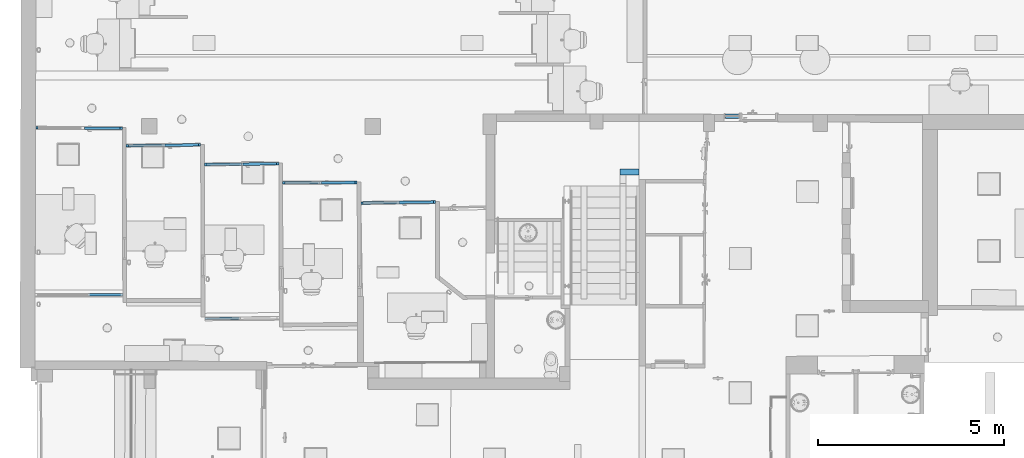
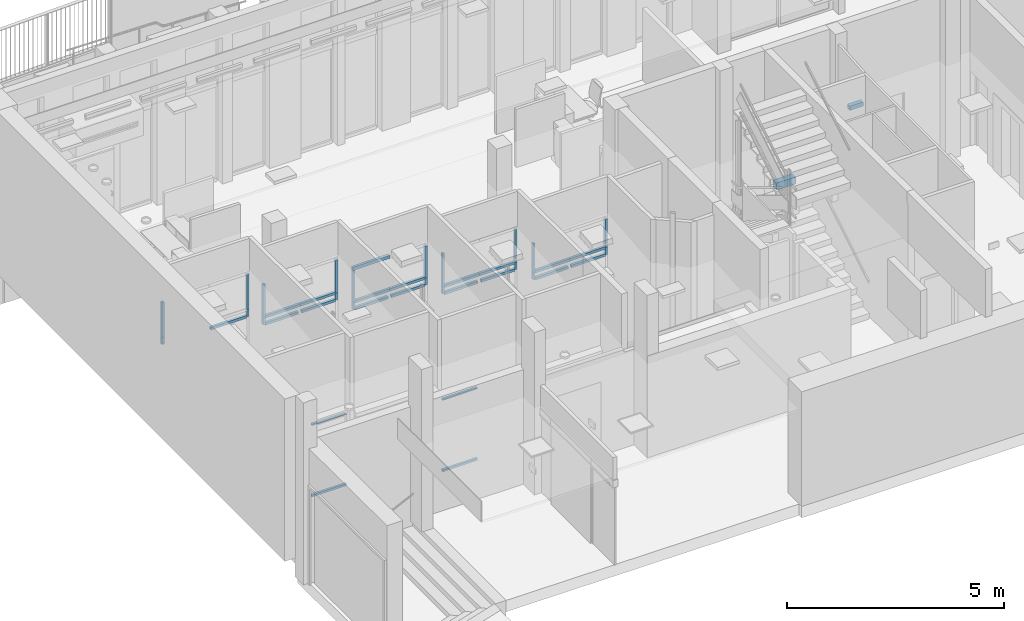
# One storey, part 14 of 128: 44 members, 9 elements without a shape of their own.
"""IFC2X3 building model written with IfcOpenShell, lengths in metres."""

from ifc_helpers import new_model, entity, si_unit, converted_unit, derived_unit, direction, frame, frame_2d, origin, origin_2d_with_axis, place, context, subcontext, project, spatial, rectangle, extrude, source, transform, mapped, material, type_object, type_shapes, element, aggregate, save


model = new_model("IFC2X3")

# Units and contexts
model_context = context("Model", 3, precision=1e-05, world=origin(), true_north=direction((6.123031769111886e-17, 1.0)))
body_context = subcontext(model_context, "Body", "Model", "MODEL_VIEW")
ifc_project = project(units=[si_unit("LENGTHUNIT", "METRE"), si_unit("AREAUNIT", "SQUARE_METRE"), converted_unit("PLANEANGLEUNIT", "DEGREE", entity("IfcPlaneAngleMeasure", 0.017453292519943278), si_unit("PLANEANGLEUNIT", "RADIAN"), dimensions=[0, 0, 0, 0, 0, 0, 0]), derived_unit("THERMALTRANSMITTANCEUNIT", [(si_unit("MASSUNIT", "GRAM", prefix="KILO"), 1), (si_unit("THERMODYNAMICTEMPERATUREUNIT", "KELVIN"), -1), (si_unit("TIMEUNIT", "SECOND"), -3)])], contexts=[model_context])

# Site, building, storey
site_placement = place(None, origin())
site = spatial("IfcSite", under=ifc_project, at=site_placement, Name="Default", CompositionType="ELEMENT")
building_placement = place(site_placement, origin())
building = spatial("IfcBuilding", under=site, at=building_placement, CompositionType="ELEMENT")
storey_placement = place(building_placement, origin())
storey = spatial("IfcBuildingStorey", under=building, at=storey_placement, Name="00_RDC CAF", CompositionType="ELEMENT", Elevation=2.4982504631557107e-13)

# Curtain wall, member
curtain_wall_type_1 = type_object("IfcCurtainWallType", Name="Mur-rideau:M.Ri_Vitre_40mm_Montant_70X90mm", PredefinedType="NOTDEFINED")
curtain_wall_1_placement = place(storey_placement, origin())
curtain_wall_1 = element("IfcCurtainWall", 1, at=curtain_wall_1_placement, inside=storey, type_object=curtain_wall_type_1, Name="Mur-rideau:M.Ri_Vitre_40mm_Montant_70X90mm", ObjectType="Mur-rideau:M.Ri_Vitre_40mm_Montant_70X90mm")
ifc_material_1 = material(Name="ARC - M.In - Blanc")
member_type_1 = type_object("IfcMemberType", Name="Meneau rectangulaire:M.Ri.M_Int_Rectangulaire_60x70mm", PredefinedType="MULLION", material=ifc_material_1)
shared_shape_1 = source(origin(), body_context, "Body", "SweptSolid", [
    extrude(rectangle(XDim=0.06, YDim=0.07, at=frame_2d((0.0, 3.469446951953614e-18), x_axis=(1.0, 0.0))), frame((-0.03, 0.0, -0.9299999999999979), z_axis=(0.0, 0.0, 1.0), x_axis=(-1.0, 0.0, 0.0)), (0.0, 0.0, 1.0), 0.9299999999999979),
])
type_shapes(member_type_1, [shared_shape_1])
member_1_placement = place(curtain_wall_1_placement, frame((9.10973142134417, 136.0333123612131, 3.204999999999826), z_axis=(0.0, 0.0, 1.0), x_axis=(-0.9999489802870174, -0.010101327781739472, 0.0)))
member_1 = element("IfcMember", 2, at=member_1_placement, type_object=member_type_1, material=ifc_material_1, Name="Meneau rectangulaire:M.Ri.M_Int_Rectangulaire_60x70mm", ObjectType="Meneau rectangulaire:M.Ri.M_Int_Rectangulaire_60x70mm", context=body_context, shape_type="MappedRepresentation", body=[
    mapped(shared_shape_1, transform((0.0, 0.0, 0.0), scale=1.0)),
])

curtain_wall_2_placement = place(storey_placement, origin())
curtain_wall_2 = element("IfcCurtainWall", 3, at=curtain_wall_2_placement, inside=storey, type_object=curtain_wall_type_1, Name="Mur-rideau:M.Ri_Vitre_40mm_Montant_70X90mm", ObjectType="Mur-rideau:M.Ri_Vitre_40mm_Montant_70X90mm")
member_2_placement = place(curtain_wall_2_placement, frame((13.312493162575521, 135.03223474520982, 3.204999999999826), z_axis=(0.0, 0.0, 1.0), x_axis=(-0.9999841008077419, -0.005638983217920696, 0.0)))
member_2 = element("IfcMember", 4, at=member_2_placement, type_object=member_type_1, material=ifc_material_1, Name="Meneau rectangulaire:M.Ri.M_Int_Rectangulaire_60x70mm", ObjectType="Meneau rectangulaire:M.Ri.M_Int_Rectangulaire_60x70mm", context=body_context, shape_type="MappedRepresentation", body=[
    mapped(shared_shape_1, transform((0.0, 0.0, 0.0), scale=1.0)),
])

# Member
member_type_2 = type_object("IfcMemberType", Name="Meneau rectangulaire:M.Ri.M_Int_Rectangulaire_60x70mm", PredefinedType="MULLION", material=ifc_material_1)
shared_shape_2 = source(origin(), body_context, "Body", "SweptSolid", [
    extrude(rectangle(XDim=0.06, YDim=0.07, at=frame_2d((0.0, 3.469446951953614e-18), x_axis=(1.0, 0.0))), frame((-0.03, 0.0, -0.2000000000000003), z_axis=(0.0, 0.0, 1.0), x_axis=(-1.0, 0.0, 0.0)), (0.0, 0.0, 1.0), 0.2000000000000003),
])
type_shapes(member_type_2, [shared_shape_2])
member_3_placement = place(curtain_wall_1_placement, frame((11.111169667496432, 136.0535305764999, 2.0749999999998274), z_axis=(0.0, 0.0, -1.0), x_axis=(0.9999489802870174, 0.010101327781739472, 0.0)))
member_3 = element("IfcMember", 5, at=member_3_placement, type_object=member_type_2, material=ifc_material_1, Name="Meneau rectangulaire:M.Ri.M_Int_Rectangulaire_60x70mm", ObjectType="Meneau rectangulaire:M.Ri.M_Int_Rectangulaire_60x70mm", context=body_context, shape_type="MappedRepresentation", body=[
    mapped(shared_shape_2, transform((0.0, 0.0, 0.0), scale=1.0)),
])

# Curtain wall, member
curtain_wall_3_placement = place(storey_placement, origin())
curtain_wall_3 = element("IfcCurtainWall", 6, at=curtain_wall_3_placement, inside=storey, type_object=curtain_wall_type_1, Name="Mur-rideau:M.Ri_Vitre_40mm_Montant_70X90mm", ObjectType="Mur-rideau:M.Ri_Vitre_40mm_Montant_70X90mm")
member_4_placement = place(curtain_wall_3_placement, frame((13.209965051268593, 135.54648401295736, 2.074999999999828), z_axis=(0.0, 0.0, -1.0), x_axis=(0.9999489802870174, 0.010101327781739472, 0.0)))
member_4 = element("IfcMember", 7, at=member_4_placement, type_object=member_type_2, material=ifc_material_1, Name="Meneau rectangulaire:M.Ri.M_Int_Rectangulaire_60x70mm", ObjectType="Meneau rectangulaire:M.Ri.M_Int_Rectangulaire_60x70mm", context=body_context, shape_type="MappedRepresentation", body=[
    mapped(shared_shape_2, transform((0.0, 0.0, 0.0), scale=1.0)),
])

curtain_wall_4_placement = place(storey_placement, origin())
curtain_wall_4 = element("IfcCurtainWall", 8, at=curtain_wall_4_placement, inside=storey, type_object=curtain_wall_type_1, Name="Mur-rideau:M.Ri_Vitre_40mm_Montant_70X90mm", ObjectType="Mur-rideau:M.Ri_Vitre_40mm_Montant_70X90mm")
member_5_placement = place(curtain_wall_4_placement, frame((9.008450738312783, 136.5017976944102, 2.074999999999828), z_axis=(0.0, 0.0, -1.0), x_axis=(1.0, 0.0, 0.0)))
member_5 = element("IfcMember", 9, at=member_5_placement, type_object=member_type_2, material=ifc_material_1, Name="Meneau rectangulaire:M.Ri.M_Int_Rectangulaire_60x70mm", ObjectType="Meneau rectangulaire:M.Ri.M_Int_Rectangulaire_60x70mm", context=body_context, shape_type="MappedRepresentation", body=[
    mapped(shared_shape_2, transform((0.0, 0.0, 0.0), scale=1.0)),
])

# Member
member_6_placement = place(curtain_wall_2_placement, frame((15.313763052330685, 135.04352005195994, 2.0749999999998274), z_axis=(0.0, 0.0, -1.0), x_axis=(0.9999841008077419, 0.005638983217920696, 0.0)))
member_6 = element("IfcMember", 10, at=member_6_placement, type_object=member_type_2, material=ifc_material_1, Name="Meneau rectangulaire:M.Ri.M_Int_Rectangulaire_60x70mm", ObjectType="Meneau rectangulaire:M.Ri.M_Int_Rectangulaire_60x70mm", context=body_context, shape_type="MappedRepresentation", body=[
    mapped(shared_shape_2, transform((0.0, 0.0, 0.0), scale=1.0)),
])

# Curtain wall, member
curtain_wall_5_placement = place(storey_placement, origin())
curtain_wall_5 = element("IfcCurtainWall", 11, at=curtain_wall_5_placement, inside=storey, type_object=curtain_wall_type_1, Name="Mur-rideau:M.Ri_Vitre_40mm_Montant_70X90mm", ObjectType="Mur-rideau:M.Ri_Vitre_40mm_Montant_70X90mm")
member_7_placement = place(curtain_wall_5_placement, frame((17.418983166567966, 134.51996317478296, 2.074999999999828), z_axis=(0.0, 0.0, -1.0), x_axis=(0.9998908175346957, 0.014776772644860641, 0.0)))
member_7 = element("IfcMember", 12, at=member_7_placement, type_object=member_type_2, material=ifc_material_1, Name="Meneau rectangulaire:M.Ri.M_Int_Rectangulaire_60x70mm", ObjectType="Meneau rectangulaire:M.Ri.M_Int_Rectangulaire_60x70mm", context=body_context, shape_type="MappedRepresentation", body=[
    mapped(shared_shape_2, transform((0.0, 0.0, 0.0), scale=1.0)),
])

# Member
member_type_3 = type_object("IfcMemberType", Name="Meneau rectangulaire:M.Ri.M_Int_Rectangulaire_60x70mm", PredefinedType="MULLION", material=ifc_material_1)
shared_shape_3 = source(origin(), body_context, "Body", "SweptSolid", [
    extrude(rectangle(XDim=0.06, YDim=0.07, at=frame_2d((0.0, 3.469446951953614e-18), x_axis=(1.0, 0.0))), frame((-0.03, 0.0, -0.2000000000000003), z_axis=(0.0, 0.0, 1.0), x_axis=(-1.0, 0.0, 0.0)), (0.0, 0.0, 1.0), 0.2000000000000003),
])
type_shapes(member_type_3, [shared_shape_3])
member_8_placement = place(curtain_wall_1_placement, frame((9.10973142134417, 136.0333123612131, 2.2749999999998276), z_axis=(0.0, 0.0, 1.0), x_axis=(-0.9999489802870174, -0.010101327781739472, 0.0)))
member_8 = element("IfcMember", 13, at=member_8_placement, type_object=member_type_3, material=ifc_material_1, Name="Meneau rectangulaire:M.Ri.M_Int_Rectangulaire_60x70mm", ObjectType="Meneau rectangulaire:M.Ri.M_Int_Rectangulaire_60x70mm", context=body_context, shape_type="MappedRepresentation", body=[
    mapped(shared_shape_3, transform((0.0, 0.0, 0.0), scale=1.0)),
])

member_9_placement = place(curtain_wall_3_placement, frame((11.212610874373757, 135.52630705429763, 2.2749999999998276), z_axis=(0.0, 0.0, 1.0), x_axis=(-0.9999489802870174, -0.010101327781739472, 0.0)))
member_9 = element("IfcMember", 14, at=member_9_placement, type_object=member_type_3, material=ifc_material_1, Name="Meneau rectangulaire:M.Ri.M_Int_Rectangulaire_60x70mm", ObjectType="Meneau rectangulaire:M.Ri.M_Int_Rectangulaire_60x70mm", context=body_context, shape_type="MappedRepresentation", body=[
    mapped(shared_shape_3, transform((0.0, 0.0, 0.0), scale=1.0)),
])

member_10_placement = place(curtain_wall_4_placement, frame((6.6901867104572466, 136.50948179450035, 2.2749999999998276), z_axis=(0.0, 0.0, 1.0), x_axis=(-1.0, 0.0, 0.0)))
member_10 = element("IfcMember", 15, at=member_10_placement, type_object=member_type_3, material=ifc_material_1, Name="Meneau rectangulaire:M.Ri.M_Int_Rectangulaire_60x70mm", ObjectType="Meneau rectangulaire:M.Ri.M_Int_Rectangulaire_60x70mm", context=body_context, shape_type="MappedRepresentation", body=[
    mapped(shared_shape_3, transform((0.0, 0.0, 0.0), scale=1.0)),
])

member_11_placement = place(curtain_wall_2_placement, frame((13.312493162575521, 135.03223474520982, 2.2749999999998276), z_axis=(0.0, 0.0, 1.0), x_axis=(-0.9999841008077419, -0.005638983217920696, 0.0)))
member_11 = element("IfcMember", 16, at=member_11_placement, type_object=member_type_3, material=ifc_material_1, Name="Meneau rectangulaire:M.Ri.M_Int_Rectangulaire_60x70mm", ObjectType="Meneau rectangulaire:M.Ri.M_Int_Rectangulaire_60x70mm", context=body_context, shape_type="MappedRepresentation", body=[
    mapped(shared_shape_3, transform((0.0, 0.0, 0.0), scale=1.0)),
])

member_12_placement = place(curtain_wall_5_placement, frame((15.415211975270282, 134.49035067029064, 2.2749999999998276), z_axis=(0.0, 0.0, 1.0), x_axis=(-0.9998908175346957, -0.014776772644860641, 0.0)))
member_12 = element("IfcMember", 17, at=member_12_placement, type_object=member_type_3, material=ifc_material_1, Name="Meneau rectangulaire:M.Ri.M_Int_Rectangulaire_60x70mm", ObjectType="Meneau rectangulaire:M.Ri.M_Int_Rectangulaire_60x70mm", context=body_context, shape_type="MappedRepresentation", body=[
    mapped(shared_shape_3, transform((0.0, 0.0, 0.0), scale=1.0)),
])

member_type_4 = type_object("IfcMemberType", Name="Meneau rectangulaire:M.Ri.M_Int_Rectangulaire_60x70mm", PredefinedType="MULLION", material=ifc_material_1)
shared_shape_4 = source(origin(), body_context, "Body", "SweptSolid", [
    extrude(rectangle(XDim=0.06, YDim=0.07, at=frame_2d((0.0, 3.469446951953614e-18), x_axis=(1.0, 0.0))), frame((-0.03, 0.0, -0.9299999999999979), z_axis=(0.0, 0.0, 1.0), x_axis=(-1.0, 0.0, 0.0)), (0.0, 0.0, 1.0), 0.9299999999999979),
])
type_shapes(member_type_4, [shared_shape_4])
member_13_placement = place(curtain_wall_1_placement, frame((11.111169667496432, 136.0535305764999, 2.2749999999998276), z_axis=(0.0, 0.0, -1.0), x_axis=(0.9999489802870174, 0.010101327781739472, 0.0)))
member_13 = element("IfcMember", 18, at=member_13_placement, type_object=member_type_4, material=ifc_material_1, Name="Meneau rectangulaire:M.Ri.M_Int_Rectangulaire_60x70mm", ObjectType="Meneau rectangulaire:M.Ri.M_Int_Rectangulaire_60x70mm", context=body_context, shape_type="MappedRepresentation", body=[
    mapped(shared_shape_4, transform((0.0, 0.0, 0.0), scale=1.0)),
])

member_14_placement = place(curtain_wall_2_placement, frame((15.313763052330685, 135.04352005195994, 2.2749999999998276), z_axis=(0.0, 0.0, -1.0), x_axis=(0.9999841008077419, 0.005638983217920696, 0.0)))
member_14 = element("IfcMember", 19, at=member_14_placement, type_object=member_type_4, material=ifc_material_1, Name="Meneau rectangulaire:M.Ri.M_Int_Rectangulaire_60x70mm", ObjectType="Meneau rectangulaire:M.Ri.M_Int_Rectangulaire_60x70mm", context=body_context, shape_type="MappedRepresentation", body=[
    mapped(shared_shape_4, transform((0.0, 0.0, 0.0), scale=1.0)),
])

member_type_5 = type_object("IfcMemberType", Name="Meneau rectangulaire:M.Ri.M_Int_Rectangulaire_70x70mm", PredefinedType="MULLION", material=ifc_material_1)
shared_shape_5 = source(origin(), body_context, "Body", "SweptSolid", [
    extrude(rectangle(XDim=0.07, YDim=0.07, at=frame_2d((0.0, 3.469446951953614e-18), x_axis=(1.0, 0.0))), frame((0.0, 0.0, -0.9008180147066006), z_axis=(0.0, 0.0, 1.0), x_axis=(-1.0, 0.0, 0.0)), (0.0, 0.0, 1.0), 0.9008180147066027),
])
type_shapes(member_type_5, [shared_shape_5])
member_15_placement = place(curtain_wall_1_placement, frame((11.051172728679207, 136.05292449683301, 2.0749999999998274), z_axis=(0.9999489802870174, 0.010101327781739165, 0.0), x_axis=(0.0, 0.0, 1.0)))
member_15 = element("IfcMember", 20, at=member_15_placement, type_object=member_type_5, material=ifc_material_1, Name="Meneau rectangulaire:M.Ri.M_Int_Rectangulaire_70x70mm", ObjectType="Meneau rectangulaire:M.Ri.M_Int_Rectangulaire_70x70mm", context=body_context, shape_type="MappedRepresentation", body=[
    mapped(shared_shape_5, transform((0.0, 0.0, 0.0), scale=1.0)),
])

member_16_placement = place(curtain_wall_3_placement, frame((13.14996811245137, 135.54587793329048, 2.074999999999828), z_axis=(0.9999489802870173, 0.010101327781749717, 0.0), x_axis=(0.0, 0.0, 1.0)))
member_16 = element("IfcMember", 21, at=member_16_placement, type_object=member_type_5, material=ifc_material_1, Name="Meneau rectangulaire:M.Ri.M_Int_Rectangulaire_70x70mm", ObjectType="Meneau rectangulaire:M.Ri.M_Int_Rectangulaire_70x70mm", context=body_context, shape_type="MappedRepresentation", body=[
    mapped(shared_shape_5, transform((0.0, 0.0, 0.0), scale=1.0)),
])

member_type_6 = type_object("IfcMemberType", Name="Meneau rectangulaire:M.Ri.M_Int_Rectangulaire_70x70mm", PredefinedType="MULLION", material=ifc_material_1)
shared_shape_6 = source(origin(), body_context, "Body", "SweptSolid", [
    extrude(rectangle(XDim=0.07, YDim=0.07, at=frame_2d((0.0, 3.469446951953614e-18), x_axis=(1.0, 0.0))), frame((0.0, 0.0, -0.8907223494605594), z_axis=(0.0, 0.0, 1.0), x_axis=(-1.0, 0.0, 0.0)), (0.0, 0.0, 1.0), 0.8907223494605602),
])
type_shapes(member_type_6, [shared_shape_6])
member_17_placement = place(curtain_wall_1_placement, frame((10.06040526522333, 136.04291591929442, 2.0749999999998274), z_axis=(0.9999489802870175, 0.010101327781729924, 0.0), x_axis=(0.0, 0.0, 1.0)))
member_17 = element("IfcMember", 22, at=member_17_placement, type_object=member_type_6, material=ifc_material_1, Name="Meneau rectangulaire:M.Ri.M_Int_Rectangulaire_70x70mm", ObjectType="Meneau rectangulaire:M.Ri.M_Int_Rectangulaire_70x70mm", context=body_context, shape_type="MappedRepresentation", body=[
    mapped(shared_shape_6, transform((0.0, 0.0, 0.0), scale=1.0)),
])

member_18_placement = place(curtain_wall_2_placement, frame((14.263200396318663, 135.03759585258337, 2.0749999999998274), z_axis=(0.9999841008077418, 0.0056389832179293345, 0.0), x_axis=(0.0, 0.0, 1.0)))
member_18 = element("IfcMember", 23, at=member_18_placement, type_object=member_type_6, material=ifc_material_1, Name="Meneau rectangulaire:M.Ri.M_Int_Rectangulaire_70x70mm", ObjectType="Meneau rectangulaire:M.Ri.M_Int_Rectangulaire_70x70mm", context=body_context, shape_type="MappedRepresentation", body=[
    mapped(shared_shape_6, transform((0.0, 0.0, 0.0), scale=1.0)),
])

member_type_7 = type_object("IfcMemberType", Name="Meneau rectangulaire:M.Ri.M_Int_Rectangulaire_70x70mm", PredefinedType="MULLION", material=ifc_material_1)
shared_shape_7 = source(origin(), body_context, "Body", "SweptSolid", [
    extrude(rectangle(XDim=0.07, YDim=0.07, at=frame_2d((0.0, 3.469446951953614e-18), x_axis=(1.0, 0.0))), frame((0.0, 0.0, -0.9458180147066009), z_axis=(0.0, 0.0, 1.0), x_axis=(-1.0, 0.0, 0.0)), (0.0, 0.0, 1.0), 0.9458180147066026),
])
type_shapes(member_type_7, [shared_shape_7])
member_19_placement = place(curtain_wall_1_placement, frame((11.051172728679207, 136.05292449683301, 2.2749999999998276), z_axis=(0.9999489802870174, 0.010101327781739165, 0.0), x_axis=(0.0, 0.0, 1.0)))
member_19 = element("IfcMember", 24, at=member_19_placement, type_object=member_type_7, material=ifc_material_1, Name="Meneau rectangulaire:M.Ri.M_Int_Rectangulaire_70x70mm", ObjectType="Meneau rectangulaire:M.Ri.M_Int_Rectangulaire_70x70mm", context=body_context, shape_type="MappedRepresentation", body=[
    mapped(shared_shape_7, transform((0.0, 0.0, 0.0), scale=1.0)),
])

member_20_placement = place(curtain_wall_3_placement, frame((13.14996811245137, 135.54587793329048, 2.2749999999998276), z_axis=(0.9999489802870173, 0.010101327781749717, 0.0), x_axis=(0.0, 0.0, 1.0)))
member_20 = element("IfcMember", 25, at=member_20_placement, type_object=member_type_7, material=ifc_material_1, Name="Meneau rectangulaire:M.Ri.M_Int_Rectangulaire_70x70mm", ObjectType="Meneau rectangulaire:M.Ri.M_Int_Rectangulaire_70x70mm", context=body_context, shape_type="MappedRepresentation", body=[
    mapped(shared_shape_7, transform((0.0, 0.0, 0.0), scale=1.0)),
])

member_type_8 = type_object("IfcMemberType", Name="Meneau rectangulaire:M.Ri.M_Int_Rectangulaire_70x70mm", PredefinedType="MULLION", material=ifc_material_1)
shared_shape_8 = source(origin(), body_context, "Body", "SweptSolid", [
    extrude(rectangle(XDim=0.07, YDim=0.07, at=frame_2d((0.0, 3.469446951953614e-18), x_axis=(1.0, 0.0))), frame((0.0, 0.0, -0.93572234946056), z_axis=(0.0, 0.0, 1.0), x_axis=(-1.0, 0.0, 0.0)), (0.0, 0.0, 1.0), 0.9357223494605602),
])
type_shapes(member_type_8, [shared_shape_8])
member_21_placement = place(curtain_wall_1_placement, frame((10.105402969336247, 136.04337047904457, 2.2749999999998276), z_axis=(0.9999489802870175, 0.010101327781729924, 0.0), x_axis=(0.0, 0.0, 1.0)))
member_21 = element("IfcMember", 26, at=member_21_placement, type_object=member_type_8, material=ifc_material_1, Name="Meneau rectangulaire:M.Ri.M_Int_Rectangulaire_70x70mm", ObjectType="Meneau rectangulaire:M.Ri.M_Int_Rectangulaire_70x70mm", context=body_context, shape_type="MappedRepresentation", body=[
    mapped(shared_shape_8, transform((0.0, 0.0, 0.0), scale=1.0)),
])

aggregate(curtain_wall_1, [member_1, member_3, member_8, member_13, member_15, member_17, member_19, member_21])

member_22_placement = place(curtain_wall_2_placement, frame((14.30819968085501, 135.03784960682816, 2.2749999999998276), z_axis=(0.9999841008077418, 0.0056389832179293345, 0.0), x_axis=(0.0, 0.0, 1.0)))
member_22 = element("IfcMember", 27, at=member_22_placement, type_object=member_type_8, material=ifc_material_1, Name="Meneau rectangulaire:M.Ri.M_Int_Rectangulaire_70x70mm", ObjectType="Meneau rectangulaire:M.Ri.M_Int_Rectangulaire_70x70mm", context=body_context, shape_type="MappedRepresentation", body=[
    mapped(shared_shape_8, transform((0.0, 0.0, 0.0), scale=1.0)),
])

member_type_9 = type_object("IfcMemberType", Name="Meneau rectangulaire:M.Ri.M_Int_Rectangulaire_60x70mm", PredefinedType="MULLION", material=ifc_material_1)
shared_shape_9 = source(origin(), body_context, "Body", "SweptSolid", [
    extrude(rectangle(XDim=0.06, YDim=0.07, at=frame_2d((0.0, 3.469446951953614e-18), x_axis=(1.0, 0.0))), frame((-0.03, 0.0, -0.8999999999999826), z_axis=(0.0, 0.0, 1.0), x_axis=(-1.0, 0.0, 0.0)), (0.0, 0.0, 1.0), 0.8999999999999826),
])
type_shapes(member_type_9, [shared_shape_9])
member_23_placement = place(curtain_wall_3_placement, frame((11.212610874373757, 135.52630705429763, 3.1749999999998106), z_axis=(0.0, 0.0, 1.0), x_axis=(-0.9999489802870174, -0.010101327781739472, 0.0)))
member_23 = element("IfcMember", 28, at=member_23_placement, type_object=member_type_9, material=ifc_material_1, Name="Meneau rectangulaire:M.Ri.M_Int_Rectangulaire_60x70mm", ObjectType="Meneau rectangulaire:M.Ri.M_Int_Rectangulaire_60x70mm", context=body_context, shape_type="MappedRepresentation", body=[
    mapped(shared_shape_9, transform((0.0, 0.0, 0.0), scale=1.0)),
])

member_type_10 = type_object("IfcMemberType", Name="Meneau rectangulaire:M.Ri.M_Int_Rectangulaire_60x70mm", PredefinedType="MULLION", material=ifc_material_1)
shared_shape_10 = source(origin(), body_context, "Body", "SweptSolid", [
    extrude(rectangle(XDim=0.06, YDim=0.07, at=frame_2d((0.0, 3.469446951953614e-18), x_axis=(1.0, 0.0))), frame((-0.03, 0.0, -0.8999999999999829), z_axis=(0.0, 0.0, 1.0), x_axis=(-1.0, 0.0, 0.0)), (0.0, 0.0, 1.0), 0.8999999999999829),
])
type_shapes(member_type_10, [shared_shape_10])
member_24_placement = place(curtain_wall_3_placement, frame((13.209965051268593, 135.54648401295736, 2.2749999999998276), z_axis=(0.0, 0.0, -1.0), x_axis=(0.9999489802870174, 0.010101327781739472, 0.0)))
member_24 = element("IfcMember", 29, at=member_24_placement, type_object=member_type_10, material=ifc_material_1, Name="Meneau rectangulaire:M.Ri.M_Int_Rectangulaire_60x70mm", ObjectType="Meneau rectangulaire:M.Ri.M_Int_Rectangulaire_60x70mm", context=body_context, shape_type="MappedRepresentation", body=[
    mapped(shared_shape_10, transform((0.0, 0.0, 0.0), scale=1.0)),
])

member_type_11 = type_object("IfcMemberType", Name="Meneau rectangulaire:M.Ri.M_Int_Rectangulaire_90x70mm", PredefinedType="MULLION", material=ifc_material_1)
shared_shape_11 = source(origin(), body_context, "Body", "SweptSolid", [
    extrude(rectangle(XDim=0.09, YDim=0.06999999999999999, at=origin_2d_with_axis()), frame((-0.045, 0.0, -0.9916441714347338), z_axis=(0.0, 0.0, 1.0), x_axis=(-1.0, 0.0, 0.0)), (0.0, 0.0, 1.0), 0.9916441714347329),
])
type_shapes(member_type_11, [shared_shape_11])
member_25_placement = place(curtain_wall_3_placement, frame((12.204204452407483, 135.53632397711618, 3.2649999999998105), z_axis=(0.9999489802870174, 0.010101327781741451, 0.0), x_axis=(0.0, 0.0, 1.0)))
member_25 = element("IfcMember", 30, at=member_25_placement, type_object=member_type_11, material=ifc_material_1, Name="Meneau rectangulaire:M.Ri.M_Int_Rectangulaire_90x70mm", ObjectType="Meneau rectangulaire:M.Ri.M_Int_Rectangulaire_90x70mm", context=body_context, shape_type="MappedRepresentation", body=[
    mapped(shared_shape_11, transform((0.0, 0.0, 0.0), scale=1.0)),
])

member_type_12 = type_object("IfcMemberType", Name="Meneau rectangulaire:M.Ri.M_Int_Rectangulaire_70x70mm", PredefinedType="MULLION", material=ifc_material_1)
shared_shape_12 = source(origin(), body_context, "Body", "SweptSolid", [
    extrude(rectangle(XDim=0.07, YDim=0.07, at=frame_2d((0.0, 3.469446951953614e-18), x_axis=(1.0, 0.0))), frame((0.0, 0.0, -0.8866441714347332), z_axis=(0.0, 0.0, 1.0), x_axis=(-1.0, 0.0, 0.0)), (0.0, 0.0, 1.0), 0.8866441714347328),
])
type_shapes(member_type_12, [shared_shape_12])
member_26_placement = place(curtain_wall_3_placement, frame((12.159206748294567, 135.535869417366, 2.074999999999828), z_axis=(0.9999489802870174, 0.010101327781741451, 0.0), x_axis=(0.0, 0.0, 1.0)))
member_26 = element("IfcMember", 31, at=member_26_placement, type_object=member_type_12, material=ifc_material_1, Name="Meneau rectangulaire:M.Ri.M_Int_Rectangulaire_70x70mm", ObjectType="Meneau rectangulaire:M.Ri.M_Int_Rectangulaire_70x70mm", context=body_context, shape_type="MappedRepresentation", body=[
    mapped(shared_shape_12, transform((0.0, 0.0, 0.0), scale=1.0)),
])

member_type_13 = type_object("IfcMemberType", Name="Meneau rectangulaire:M.Ri.M_Int_Rectangulaire_70x70mm", PredefinedType="MULLION", material=ifc_material_1)
shared_shape_13 = source(origin(), body_context, "Body", "SweptSolid", [
    extrude(rectangle(XDim=0.07, YDim=0.07, at=origin_2d_with_axis()), frame((0.0, 0.0, -0.9316441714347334), z_axis=(0.0, 0.0, 1.0), x_axis=(-1.0, 0.0, 0.0)), (0.0, 0.0, 1.0), 0.931644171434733),
])
type_shapes(member_type_13, [shared_shape_13])
member_27_placement = place(curtain_wall_3_placement, frame((12.204204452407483, 135.53632397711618, 2.2749999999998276), z_axis=(0.9999489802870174, 0.010101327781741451, 0.0), x_axis=(0.0, 0.0, 1.0)))
member_27 = element("IfcMember", 32, at=member_27_placement, type_object=member_type_13, material=ifc_material_1, Name="Meneau rectangulaire:M.Ri.M_Int_Rectangulaire_70x70mm", ObjectType="Meneau rectangulaire:M.Ri.M_Int_Rectangulaire_70x70mm", context=body_context, shape_type="MappedRepresentation", body=[
    mapped(shared_shape_13, transform((0.0, 0.0, 0.0), scale=1.0)),
])

aggregate(curtain_wall_3, [member_23, member_4, member_9, member_24, member_25, member_16, member_26, member_20, member_27])

member_type_14 = type_object("IfcMemberType", Name="Meneau rectangulaire:M.Ri.M_Int_Rectangulaire_60x70mm", PredefinedType="MULLION", material=ifc_material_1)
shared_shape_14 = source(origin(), body_context, "Body", "SweptSolid", [
    extrude(rectangle(XDim=0.06, YDim=0.07, at=frame_2d((0.0, 3.469446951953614e-18), x_axis=(1.0, 0.0))), frame((-0.03, 0.0, -0.9850000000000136), z_axis=(0.0, 0.0, 1.0), x_axis=(-1.0, 0.0, 0.0)), (0.0, 0.0, 1.0), 0.9850000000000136),
])
type_shapes(member_type_14, [shared_shape_14])
member_28_placement = place(curtain_wall_4_placement, frame((6.6901867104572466, 136.50948179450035, 3.2599999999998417), z_axis=(0.0, 0.0, 1.0), x_axis=(-1.0, 0.0, 0.0)))
member_28 = element("IfcMember", 33, at=member_28_placement, type_object=member_type_14, material=ifc_material_1, Name="Meneau rectangulaire:M.Ri.M_Int_Rectangulaire_60x70mm", ObjectType="Meneau rectangulaire:M.Ri.M_Int_Rectangulaire_60x70mm", context=body_context, shape_type="MappedRepresentation", body=[
    mapped(shared_shape_14, transform((0.0, 0.0, 0.0), scale=1.0)),
])

member_type_15 = type_object("IfcMemberType", Name="Meneau rectangulaire:M.Ri.M_Int_Rectangulaire_60x70mm", PredefinedType="MULLION", material=ifc_material_1)
shared_shape_15 = source(origin(), body_context, "Body", "SweptSolid", [
    extrude(rectangle(XDim=0.06, YDim=0.07, at=frame_2d((0.0, 3.469446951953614e-18), x_axis=(1.0, 0.0))), frame((-0.03, 0.0, -0.9850000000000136), z_axis=(0.0, 0.0, 1.0), x_axis=(-1.0, 0.0, 0.0)), (0.0, 0.0, 1.0), 0.9850000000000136),
])
type_shapes(member_type_15, [shared_shape_15])
member_29_placement = place(curtain_wall_4_placement, frame((9.008450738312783, 136.5017976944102, 2.2749999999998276), z_axis=(0.0, 0.0, -1.0), x_axis=(1.0, 0.0, 0.0)))
member_29 = element("IfcMember", 34, at=member_29_placement, type_object=member_type_15, material=ifc_material_1, Name="Meneau rectangulaire:M.Ri.M_Int_Rectangulaire_60x70mm", ObjectType="Meneau rectangulaire:M.Ri.M_Int_Rectangulaire_60x70mm", context=body_context, shape_type="MappedRepresentation", body=[
    mapped(shared_shape_15, transform((0.0, 0.0, 0.0), scale=1.0)),
])

member_type_16 = type_object("IfcMemberType", Name="Meneau rectangulaire:M.Ri.M_Int_Rectangulaire_70x70mm", PredefinedType="MULLION", material=ifc_material_1)
shared_shape_16 = source(origin(), body_context, "Body", "SweptSolid", [
    extrude(rectangle(XDim=0.07, YDim=0.07, at=origin_2d_with_axis()), frame((0.0, 0.0, -0.9590947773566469), z_axis=(0.0, 0.0, 1.0), x_axis=(-1.0, 0.0, 0.0)), (0.0, 0.0, 1.0), 0.9590947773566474),
])
type_shapes(member_type_16, [shared_shape_16])
member_30_placement = place(curtain_wall_4_placement, frame((8.94845106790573, 136.50199656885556, 2.074999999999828), z_axis=(1.0, 0.0, 0.0), x_axis=(0.0, 0.0, 1.0)))
member_30 = element("IfcMember", 35, at=member_30_placement, type_object=member_type_16, material=ifc_material_1, Name="Meneau rectangulaire:M.Ri.M_Int_Rectangulaire_70x70mm", ObjectType="Meneau rectangulaire:M.Ri.M_Int_Rectangulaire_70x70mm", context=body_context, shape_type="MappedRepresentation", body=[
    mapped(shared_shape_16, transform((0.0, 0.0, 0.0), scale=1.0)),
])

aggregate(curtain_wall_4, [member_28, member_5, member_10, member_29, member_30])

member_type_17 = type_object("IfcMemberType", Name="Meneau rectangulaire:M.Ri.M_Int_Rectangulaire_70x70mm", PredefinedType="MULLION", material=ifc_material_1)
shared_shape_17 = source(origin(), body_context, "Body", "SweptSolid", [
    extrude(rectangle(XDim=0.07, YDim=0.07, at=origin_2d_with_axis()), frame((0.0, 0.0, -0.9005793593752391), z_axis=(0.0, 0.0, 1.0), x_axis=(-1.0, 0.0, 0.0)), (0.0, 0.0, 1.0), 0.9005793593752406),
])
type_shapes(member_type_17, [shared_shape_17])
member_31_placement = place(curtain_wall_2_placement, frame((15.253764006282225, 135.0431817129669, 2.0749999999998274), z_axis=(0.999984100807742, 0.005638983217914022, 0.0), x_axis=(0.0, 0.0, 1.0)))
member_31 = element("IfcMember", 36, at=member_31_placement, type_object=member_type_17, material=ifc_material_1, Name="Meneau rectangulaire:M.Ri.M_Int_Rectangulaire_70x70mm", ObjectType="Meneau rectangulaire:M.Ri.M_Int_Rectangulaire_70x70mm", context=body_context, shape_type="MappedRepresentation", body=[
    mapped(shared_shape_17, transform((0.0, 0.0, 0.0), scale=1.0)),
])

member_type_18 = type_object("IfcMemberType", Name="Meneau rectangulaire:M.Ri.M_Int_Rectangulaire_70x70mm", PredefinedType="MULLION", material=ifc_material_1)
shared_shape_18 = source(origin(), body_context, "Body", "SweptSolid", [
    extrude(rectangle(XDim=0.07, YDim=0.07, at=origin_2d_with_axis()), frame((0.0, 0.0, -0.9455793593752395), z_axis=(0.0, 0.0, 1.0), x_axis=(-1.0, 0.0, 0.0)), (0.0, 0.0, 1.0), 0.9455793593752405),
])
type_shapes(member_type_18, [shared_shape_18])
member_32_placement = place(curtain_wall_2_placement, frame((15.253764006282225, 135.0431817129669, 2.2749999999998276), z_axis=(0.999984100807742, 0.005638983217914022, 0.0), x_axis=(0.0, 0.0, 1.0)))
member_32 = element("IfcMember", 37, at=member_32_placement, type_object=member_type_18, material=ifc_material_1, Name="Meneau rectangulaire:M.Ri.M_Int_Rectangulaire_70x70mm", ObjectType="Meneau rectangulaire:M.Ri.M_Int_Rectangulaire_70x70mm", context=body_context, shape_type="MappedRepresentation", body=[
    mapped(shared_shape_18, transform((0.0, 0.0, 0.0), scale=1.0)),
])

aggregate(curtain_wall_2, [member_2, member_6, member_11, member_14, member_31, member_18, member_32, member_22])

member_type_19 = type_object("IfcMemberType", Name="Meneau rectangulaire:M.Ri.M_Int_Rectangulaire_60x70mm", PredefinedType="MULLION", material=ifc_material_1)
shared_shape_19 = source(origin(), body_context, "Body", "SweptSolid", [
    extrude(rectangle(XDim=0.06, YDim=0.07, at=origin_2d_with_axis()), frame((-0.03, 0.0, -0.8099999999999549), z_axis=(0.0, 0.0, 1.0), x_axis=(-1.0, 0.0, 0.0)), (0.0, 0.0, 1.0), 0.8099999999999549),
])
type_shapes(member_type_19, [shared_shape_19])
member_33_placement = place(curtain_wall_5_placement, frame((15.415211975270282, 134.49035067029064, 3.084999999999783), z_axis=(0.0, 0.0, 1.0), x_axis=(-0.9998908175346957, -0.014776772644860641, 0.0)))
member_33 = element("IfcMember", 38, at=member_33_placement, type_object=member_type_19, material=ifc_material_1, Name="Meneau rectangulaire:M.Ri.M_Int_Rectangulaire_60x70mm", ObjectType="Meneau rectangulaire:M.Ri.M_Int_Rectangulaire_60x70mm", context=body_context, shape_type="MappedRepresentation", body=[
    mapped(shared_shape_19, transform((0.0, 0.0, 0.0), scale=1.0)),
])

member_type_20 = type_object("IfcMemberType", Name="Meneau rectangulaire:M.Ri.M_Int_Rectangulaire_60x70mm", PredefinedType="MULLION", material=ifc_material_1)
shared_shape_20 = source(origin(), body_context, "Body", "SweptSolid", [
    extrude(rectangle(XDim=0.06, YDim=0.07, at=origin_2d_with_axis()), frame((-0.03, 0.0, -0.8099999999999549), z_axis=(0.0, 0.0, 1.0), x_axis=(-1.0, 0.0, 0.0)), (0.0, 0.0, 1.0), 0.8099999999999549),
])
type_shapes(member_type_20, [shared_shape_20])
member_34_placement = place(curtain_wall_5_placement, frame((17.418983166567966, 134.51996317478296, 2.2749999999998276), z_axis=(0.0, 0.0, -1.0), x_axis=(0.9998908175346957, 0.014776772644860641, 0.0)))
member_34 = element("IfcMember", 39, at=member_34_placement, type_object=member_type_20, material=ifc_material_1, Name="Meneau rectangulaire:M.Ri.M_Int_Rectangulaire_60x70mm", ObjectType="Meneau rectangulaire:M.Ri.M_Int_Rectangulaire_60x70mm", context=body_context, shape_type="MappedRepresentation", body=[
    mapped(shared_shape_20, transform((0.0, 0.0, 0.0), scale=1.0)),
])

member_type_21 = type_object("IfcMemberType", Name="Meneau rectangulaire:M.Ri.M_Int_Rectangulaire_70x70mm", PredefinedType="MULLION", material=ifc_material_1)
shared_shape_21 = source(origin(), body_context, "Body", "SweptSolid", [
    extrude(rectangle(XDim=0.07, YDim=0.07, at=frame_2d((0.0, 3.469446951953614e-18), x_axis=(1.0, 0.0))), frame((0.0, 0.0, -0.905584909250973), z_axis=(0.0, 0.0, 1.0), x_axis=(-1.0, 0.0, 0.0)), (0.0, 0.0, 1.0), 0.9055849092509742),
])
type_shapes(member_type_21, [shared_shape_21])
member_35_placement = place(curtain_wall_5_placement, frame((17.35898971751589, 134.5190765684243, 2.074999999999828), z_axis=(0.9998908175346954, 0.014776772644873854, 0.0), x_axis=(0.0, 0.0, 1.0)))
member_35 = element("IfcMember", 40, at=member_35_placement, type_object=member_type_21, material=ifc_material_1, Name="Meneau rectangulaire:M.Ri.M_Int_Rectangulaire_70x70mm", ObjectType="Meneau rectangulaire:M.Ri.M_Int_Rectangulaire_70x70mm", context=body_context, shape_type="MappedRepresentation", body=[
    mapped(shared_shape_21, transform((0.0, 0.0, 0.0), scale=1.0)),
])

member_type_22 = type_object("IfcMemberType", Name="Meneau rectangulaire:M.Ri.M_Int_Rectangulaire_70x70mm", PredefinedType="MULLION", material=ifc_material_1)
shared_shape_22 = source(origin(), body_context, "Body", "SweptSolid", [
    extrude(rectangle(XDim=0.07, YDim=0.07, at=origin_2d_with_axis()), frame((0.0, 0.0, -0.8884050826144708), z_axis=(0.0, 0.0, 1.0), x_axis=(-1.0, 0.0, 0.0)), (0.0, 0.0, 1.0), 0.8884050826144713),
])
type_shapes(member_type_22, [shared_shape_22])
member_36_placement = place(curtain_wall_5_placement, frame((16.36351350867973, 134.5043650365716, 2.074999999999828), z_axis=(0.9998908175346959, 0.01477677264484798, 0.0), x_axis=(0.0, 0.0, 1.0)))
member_36 = element("IfcMember", 41, at=member_36_placement, type_object=member_type_22, material=ifc_material_1, Name="Meneau rectangulaire:M.Ri.M_Int_Rectangulaire_70x70mm", ObjectType="Meneau rectangulaire:M.Ri.M_Int_Rectangulaire_70x70mm", context=body_context, shape_type="MappedRepresentation", body=[
    mapped(shared_shape_22, transform((0.0, 0.0, 0.0), scale=1.0)),
])

member_type_23 = type_object("IfcMemberType", Name="Meneau rectangulaire:M.Ri.M_Int_Rectangulaire_70x70mm", PredefinedType="MULLION", material=ifc_material_1)
shared_shape_23 = source(origin(), body_context, "Body", "SweptSolid", [
    extrude(rectangle(XDim=0.07, YDim=0.07, at=frame_2d((0.0, 3.469446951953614e-18), x_axis=(1.0, 0.0))), frame((0.0, 0.0, -0.9505849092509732), z_axis=(0.0, 0.0, 1.0), x_axis=(-1.0, 0.0, 0.0)), (0.0, 0.0, 1.0), 0.9505849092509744),
])
type_shapes(member_type_23, [shared_shape_23])
member_37_placement = place(curtain_wall_5_placement, frame((17.35898971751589, 134.5190765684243, 2.2749999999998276), z_axis=(0.9998908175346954, 0.014776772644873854, 0.0), x_axis=(0.0, 0.0, 1.0)))
member_37 = element("IfcMember", 42, at=member_37_placement, type_object=member_type_23, material=ifc_material_1, Name="Meneau rectangulaire:M.Ri.M_Int_Rectangulaire_70x70mm", ObjectType="Meneau rectangulaire:M.Ri.M_Int_Rectangulaire_70x70mm", context=body_context, shape_type="MappedRepresentation", body=[
    mapped(shared_shape_23, transform((0.0, 0.0, 0.0), scale=1.0)),
])

member_type_24 = type_object("IfcMemberType", Name="Meneau rectangulaire:M.Ri.M_Int_Rectangulaire_70x70mm", PredefinedType="MULLION", material=ifc_material_1)
shared_shape_24 = source(origin(), body_context, "Body", "SweptSolid", [
    extrude(rectangle(XDim=0.07, YDim=0.07, at=frame_2d((0.0, 3.469446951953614e-18), x_axis=(1.0, 0.0))), frame((0.0, 0.0, -0.9334050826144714), z_axis=(0.0, 0.0, 1.0), x_axis=(-1.0, 0.0, 0.0)), (0.0, 0.0, 1.0), 0.9334050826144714),
])
type_shapes(member_type_24, [shared_shape_24])
member_38_placement = place(curtain_wall_5_placement, frame((16.40850859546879, 134.50502999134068, 2.2749999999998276), z_axis=(0.9998908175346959, 0.01477677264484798, 0.0), x_axis=(0.0, 0.0, 1.0)))
member_38 = element("IfcMember", 43, at=member_38_placement, type_object=member_type_24, material=ifc_material_1, Name="Meneau rectangulaire:M.Ri.M_Int_Rectangulaire_70x70mm", ObjectType="Meneau rectangulaire:M.Ri.M_Int_Rectangulaire_70x70mm", context=body_context, shape_type="MappedRepresentation", body=[
    mapped(shared_shape_24, transform((0.0, 0.0, 0.0), scale=1.0)),
])

aggregate(curtain_wall_5, [member_33, member_7, member_12, member_34, member_35, member_36, member_37, member_38])

# Stair, member
type_product = type_object("IfcTypeProduct", Name="Escalier assemblé:E_Escalier_Assemble_Béton 2")
stair_placement = place(storey_placement, origin())
stair = element("IfcStair", 44, at=stair_placement, inside=storey, type_object=type_product, Name="Escalier assemblé:Escalier", ObjectType="Escalier assemblé:E_Escalier_Assemble_Béton 2", ShapeType="NOTDEFINED")
ifc_material_2 = material(Name="<Unnamed>")
member_type_25 = type_object("IfcMemberType", Name="Limon à crémaillère:Limon à crémaillère - Largeur 160 mm 2", PredefinedType="STRINGER")
member_39_placement = place(stair_placement, origin())
member_39 = element("IfcMember", 45, at=member_39_placement, type_object=member_type_25, material=ifc_material_2, Name="Escalier assemblé:Escalier:459485 Stringer 7", ObjectType="Limon à crémaillère:Limon à crémaillère - Largeur 160 mm 2", context=body_context, shape_type="SweptSolid", body=[
    extrude(rectangle(XDim=0.5099999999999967, YDim=0.15999999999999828, at=origin_2d_with_axis()), frame((22.624127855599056, 135.323483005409, 1.6868461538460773), z_axis=(0.0, 0.0, 1.0), x_axis=(-1.0, 0.0, 0.0)), (0.0, 0.0, 1.0), 0.2),
])
aggregate(stair, [member_39])

# Curtain wall, members
curtain_wall_type_2 = type_object("IfcCurtainWallType", Name="Mur-rideau:M.Ri_Vitre_40mm_Montant_50X50mm_Avec_Décalage", PredefinedType="NOTDEFINED")
curtain_wall_6_placement = place(storey_placement, origin())
curtain_wall_6 = element("IfcCurtainWall", 46, at=curtain_wall_6_placement, inside=storey, type_object=curtain_wall_type_2, Name="Mur-rideau:M.Ri_Vitre_40mm_Montant_50X50mm_Avec_Décalage", ObjectType="Mur-rideau:M.Ri_Vitre_40mm_Montant_50X50mm_Avec_Décalage")
member_type_26 = type_object("IfcMemberType", Name="Meneau rectangulaire:M.Ri.M_Int_Rectangulaire_40x60mm_Avec_Décalage", PredefinedType="MULLION", material=ifc_material_1)
shared_shape_25 = source(origin(), body_context, "Body", "SweptSolid", [
    extrude(rectangle(XDim=0.04, YDim=0.05999999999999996, at=origin_2d_with_axis()), frame((-0.02, 0.085, -0.915000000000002), z_axis=(0.0, 0.0, 1.0), x_axis=(-1.0, 0.0, 0.0)), (0.0, 0.0, 1.0), 0.915000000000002),
])
type_shapes(member_type_26, [shared_shape_25])
member_40_placement = place(curtain_wall_6_placement, frame((9.019765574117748, 132.11264719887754, 2.0524999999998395), z_axis=(1.0, 0.0, 0.0), x_axis=(0.0, 0.0, 1.0)))
member_40 = element("IfcMember", 47, at=member_40_placement, type_object=member_type_26, material=ifc_material_1, Name="Meneau rectangulaire:M.Ri.M_Int_Rectangulaire_40x60mm_Avec_Décalage", ObjectType="Meneau rectangulaire:M.Ri.M_Int_Rectangulaire_40x60mm_Avec_Décalage", context=body_context, shape_type="MappedRepresentation", body=[
    mapped(shared_shape_25, transform((0.0, 0.0, 0.0), scale=1.0)),
])
member_type_27 = type_object("IfcMemberType", Name="Meneau rectangulaire:M.Ri.M_Int_Rectangulaire_60x60mm_Avec_Décalage", PredefinedType="MULLION", material=ifc_material_1)
shared_shape_26 = source(origin(), body_context, "Body", "SweptSolid", [
    extrude(rectangle(XDim=0.06, YDim=0.05999999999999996, at=origin_2d_with_axis()), frame((-0.03, 0.085, -0.915000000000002), z_axis=(0.0, 0.0, 1.0), x_axis=(-1.0, 0.0, 0.0)), (0.0, 0.0, 1.0), 0.915000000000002),
])
type_shapes(member_type_27, [shared_shape_26])
member_41_placement = place(curtain_wall_6_placement, frame((8.104765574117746, 132.11264719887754, 0.0), z_axis=(-1.0, 0.0, 0.0), x_axis=(0.0, 0.0, -1.0)))
member_41 = element("IfcMember", 48, at=member_41_placement, type_object=member_type_27, material=ifc_material_1, Name="Meneau rectangulaire:M.Ri.M_Int_Rectangulaire_60x60mm_Avec_Décalage", ObjectType="Meneau rectangulaire:M.Ri.M_Int_Rectangulaire_60x60mm_Avec_Décalage", context=body_context, shape_type="MappedRepresentation", body=[
    mapped(shared_shape_26, transform((0.0, 0.0, 0.0), scale=1.0)),
])
aggregate(curtain_wall_6, [member_40, member_41])

curtain_wall_7_placement = place(storey_placement, origin())
curtain_wall_7 = element("IfcCurtainWall", 49, at=curtain_wall_7_placement, inside=storey, type_object=curtain_wall_type_2, Name="Mur-rideau:M.Ri_Vitre_40mm_Montant_50X50mm_Avec_Décalage", ObjectType="Mur-rideau:M.Ri_Vitre_40mm_Montant_50X50mm_Avec_Décalage")
member_type_28 = type_object("IfcMemberType", Name="Meneau rectangulaire:M.Ri.M_Int_Rectangulaire_60x60mm_Avec_Décalage", PredefinedType="MULLION", material=ifc_material_1)
shared_shape_27 = source(origin(), body_context, "Body", "SweptSolid", [
    extrude(rectangle(XDim=0.06, YDim=0.05999999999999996, at=origin_2d_with_axis()), frame((-0.03, 0.085, -0.9300011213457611), z_axis=(0.0, 0.0, 1.0), x_axis=(-1.0, 0.0, 0.0)), (0.0, 0.0, 1.0), 0.9300011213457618),
])
type_shapes(member_type_28, [shared_shape_27])
member_42_placement = place(curtain_wall_7_placement, frame((11.223679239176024, 131.47618656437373, 0.0), z_axis=(-0.9999522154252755, -0.009775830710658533, 0.0), x_axis=(0.0, 0.0, -1.0)))
member_42 = element("IfcMember", 50, at=member_42_placement, type_object=member_type_28, material=ifc_material_1, Name="Meneau rectangulaire:M.Ri.M_Int_Rectangulaire_60x60mm_Avec_Décalage", ObjectType="Meneau rectangulaire:M.Ri.M_Int_Rectangulaire_60x60mm_Avec_Décalage", context=body_context, shape_type="MappedRepresentation", body=[
    mapped(shared_shape_27, transform((0.0, 0.0, 0.0), scale=1.0)),
])
member_type_29 = type_object("IfcMemberType", Name="Meneau rectangulaire:M.Ri.M_Int_Rectangulaire_40x60mm_Avec_Décalage", PredefinedType="MULLION", material=ifc_material_1)
shared_shape_28 = source(origin(), body_context, "Body", "SweptSolid", [
    extrude(rectangle(XDim=0.04, YDim=0.05999999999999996, at=origin_2d_with_axis()), frame((-0.02, 0.085, -0.930001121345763), z_axis=(0.0, 0.0, 1.0), x_axis=(-1.0, 0.0, 0.0)), (0.0, 0.0, 1.0), 0.9300011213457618),
])
type_shapes(member_type_29, [shared_shape_28])
member_43_placement = place(curtain_wall_7_placement, frame((12.15363592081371, 131.48527809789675, 2.0524999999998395), z_axis=(0.9999522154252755, 0.009775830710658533, 0.0), x_axis=(0.0, 0.0, 1.0)))
member_43 = element("IfcMember", 51, at=member_43_placement, type_object=member_type_29, material=ifc_material_1, Name="Meneau rectangulaire:M.Ri.M_Int_Rectangulaire_40x60mm_Avec_Décalage", ObjectType="Meneau rectangulaire:M.Ri.M_Int_Rectangulaire_40x60mm_Avec_Décalage", context=body_context, shape_type="MappedRepresentation", body=[
    mapped(shared_shape_28, transform((0.0, 0.0, 0.0), scale=1.0)),
])
aggregate(curtain_wall_7, [member_42, member_43])

# Curtain wall, member
curtain_wall_type_3 = type_object("IfcCurtainWallType", Name="Mur-rideau:M.Ri._Vitre_40mm_Montant_115mm", PredefinedType="NOTDEFINED")
curtain_wall_8_placement = place(storey_placement, origin())
curtain_wall_8 = element("IfcCurtainWall", 52, at=curtain_wall_8_placement, inside=storey, type_object=curtain_wall_type_3, Name="Mur-rideau:M.Ri._Vitre_40mm_Montant_115mm", ObjectType="Mur-rideau:M.Ri._Vitre_40mm_Montant_115mm")
member_type_30 = type_object("IfcMemberType", Name="Meneau rectangulaire:M.Ri.M_Int_Rectangulaire_115x115mm", PredefinedType="MULLION", material=ifc_material_1)
shared_shape_29 = source(origin(), body_context, "Body", "SweptSolid", [
    extrude(rectangle(XDim=0.115, YDim=0.11500000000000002, at=frame_2d((0.0, -3.469446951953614e-18), x_axis=(1.0, 0.0))), frame((-0.0575, 0.0, -0.36260903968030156), z_axis=(0.0, 0.0, 1.0), x_axis=(-1.0, 0.0, 0.0)), (0.0, 0.0, 1.0), 0.36260903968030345),
])
type_shapes(member_type_30, [shared_shape_29])
member_44_placement = place(curtain_wall_8_placement, frame((25.56240657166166, 136.8256419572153, 2.134999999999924), z_axis=(1.0, 0.0, 0.0), x_axis=(0.0, 0.0, 1.0)))
member_44 = element("IfcMember", 53, at=member_44_placement, type_object=member_type_30, material=ifc_material_1, Name="Meneau rectangulaire:M.Ri.M_Int_Rectangulaire_115x115mm", ObjectType="Meneau rectangulaire:M.Ri.M_Int_Rectangulaire_115x115mm", context=body_context, shape_type="MappedRepresentation", body=[
    mapped(shared_shape_29, transform((0.0, 0.0, 0.0), scale=1.0)),
])
aggregate(curtain_wall_8, [member_44])

save(model, "model.ifc")
